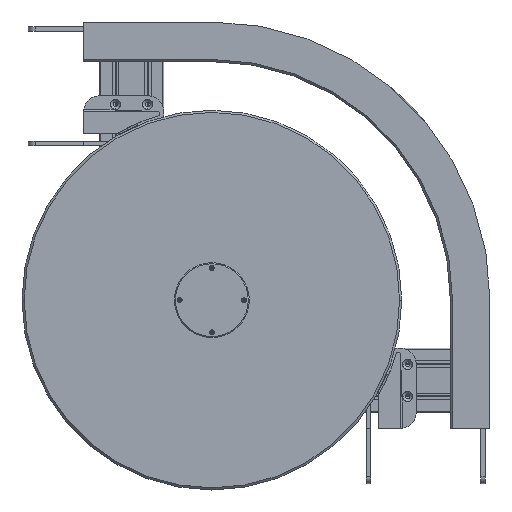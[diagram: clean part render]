
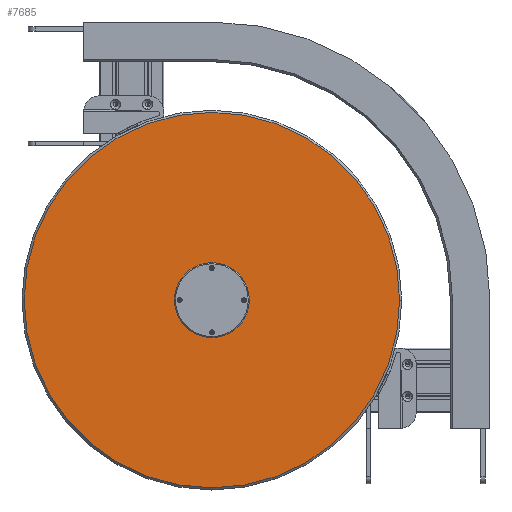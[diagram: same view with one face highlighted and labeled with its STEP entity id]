
A CAD part, front view. The second image highlights one B-rep face of the part: STEP entity #7685.
In plain terms, the highlighted planar face has unit normal (0, -1, 0) as drawn and (0, 1, 0) by its records, which use the part's own axes.
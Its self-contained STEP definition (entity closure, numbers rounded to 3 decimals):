
#1007 = EDGE_CURVE ( 'NONE', #26871, #2707, #21252, .T. ) ;
#1766 = PLANE ( 'NONE',  #25169 ) ;
#2088 = CARTESIAN_POINT ( 'NONE',  ( 0., 10., 0. ) ) ;
#2707 = VERTEX_POINT ( 'NONE', #23573 ) ;
#2722 = VERTEX_POINT ( 'NONE', #21312 ) ;
#2828 = ORIENTED_EDGE ( 'NONE', *, *, #1007, .F. ) ;
#3178 = VERTEX_POINT ( 'NONE', #3789 ) ;
#3789 = CARTESIAN_POINT ( 'NONE',  ( -30., 10., 0.75 ) ) ;
#3868 = ORIENTED_EDGE ( 'NONE', *, *, #28345, .F. ) ;
#4397 = AXIS2_PLACEMENT_3D ( 'NONE', #25790, #28052, #18798 ) ;
#4409 = FACE_BOUND ( 'NONE', #7078, .T. ) ;
#4470 = VERTEX_POINT ( 'NONE', #24363 ) ;
#4473 = VERTEX_POINT ( 'NONE', #26541 ) ;
#5443 = FACE_BOUND ( 'NONE', #17595, .T. ) ;
#5933 = AXIS2_PLACEMENT_3D ( 'NONE', #2088, #11282, #15589 ) ;
#6033 = DIRECTION ( 'NONE',  ( 0., 0., 1. ) ) ;
#6129 = CARTESIAN_POINT ( 'NONE',  ( 0., 10., 0. ) ) ;
#6133 = EDGE_CURVE ( 'NONE', #2707, #26871, #15652, .T. ) ;
#6514 = CARTESIAN_POINT ( 'NONE',  ( 0., 10., 29.25 ) ) ;
#6595 = CIRCLE ( 'NONE', #16491, 0.75 ) ;
#6934 = VERTEX_POINT ( 'NONE', #16656 ) ;
#7078 = EDGE_LOOP ( 'NONE', ( #3868, #25555 ) ) ;
#7324 = VERTEX_POINT ( 'NONE', #17791 ) ;
#7343 = CARTESIAN_POINT ( 'NONE',  ( 30., 10., 0. ) ) ;
#7685 = ADVANCED_FACE ( 'NONE', ( #18752, #8286, #4409, #5443, #24732, #26854 ), #1766, .T. ) ;
#7856 = EDGE_CURVE ( 'NONE', #28915, #6934, #19813, .T. ) ;
#8148 = ORIENTED_EDGE ( 'NONE', *, *, #12587, .T. ) ;
#8181 = ORIENTED_EDGE ( 'NONE', *, *, #13674, .F. ) ;
#8286 = FACE_BOUND ( 'NONE', #22331, .T. ) ;
#8391 = DIRECTION ( 'NONE',  ( 0., 0., 1. ) ) ;
#8692 = DIRECTION ( 'NONE',  ( 0., 1., 0. ) ) ;
#9215 = CIRCLE ( 'NONE', #27155, 25. ) ;
#9251 = CARTESIAN_POINT ( 'NONE',  ( 30., 10., 0.75 ) ) ;
#9271 = DIRECTION ( 'NONE',  ( 0., 0., 1. ) ) ;
#9782 = DIRECTION ( 'NONE',  ( 0., 1., 0. ) ) ;
#9804 = DIRECTION ( 'NONE',  ( 0., 1., 0. ) ) ;
#9884 = CARTESIAN_POINT ( 'NONE',  ( 0., 10., 30. ) ) ;
#9941 = CIRCLE ( 'NONE', #26099, 0.75 ) ;
#10459 = VERTEX_POINT ( 'NONE', #6514 ) ;
#10558 = ORIENTED_EDGE ( 'NONE', *, *, #14328, .F. ) ;
#10896 = ORIENTED_EDGE ( 'NONE', *, *, #21170, .F. ) ;
#11147 = DIRECTION ( 'NONE',  ( 0., 1., 0. ) ) ;
#11282 = DIRECTION ( 'NONE',  ( 0., 1., 0. ) ) ;
#11480 = EDGE_CURVE ( 'NONE', #6934, #28915, #9215, .T. ) ;
#11971 = DIRECTION ( 'NONE',  ( 0., 0., 1. ) ) ;
#12292 = CARTESIAN_POINT ( 'NONE',  ( 30., 10., 0. ) ) ;
#12587 = EDGE_CURVE ( 'NONE', #14635, #2722, #20068, .T. ) ;
#12608 = EDGE_CURVE ( 'NONE', #4470, #7324, #19042, .T. ) ;
#13268 = ORIENTED_EDGE ( 'NONE', *, *, #7856, .F. ) ;
#13674 = EDGE_CURVE ( 'NONE', #3178, #4473, #22645, .T. ) ;
#14240 = AXIS2_PLACEMENT_3D ( 'NONE', #26600, #21995, #22175 ) ;
#14290 = DIRECTION ( 'NONE',  ( 0., 0., 1. ) ) ;
#14305 = DIRECTION ( 'NONE',  ( 0., 1., 0. ) ) ;
#14328 = EDGE_CURVE ( 'NONE', #7324, #4470, #17383, .T. ) ;
#14408 = DIRECTION ( 'NONE',  ( 0., 0., 1. ) ) ;
#14552 = DIRECTION ( 'NONE',  ( 0., 0., 1. ) ) ;
#14635 = VERTEX_POINT ( 'NONE', #27265 ) ;
#14862 = CIRCLE ( 'NONE', #4397, 0.75 ) ;
#14900 = CARTESIAN_POINT ( 'NONE',  ( 0., 10., 25. ) ) ;
#15145 = DIRECTION ( 'NONE',  ( 0., 1., 0. ) ) ;
#15389 = CARTESIAN_POINT ( 'NONE',  ( 0., 10., 30.75 ) ) ;
#15398 = CARTESIAN_POINT ( 'NONE',  ( 0., 10., -30. ) ) ;
#15459 = VERTEX_POINT ( 'NONE', #15389 ) ;
#15589 = DIRECTION ( 'NONE',  ( 0., 0., 1. ) ) ;
#15652 = CIRCLE ( 'NONE', #26518, 0.75 ) ;
#15726 = CARTESIAN_POINT ( 'NONE',  ( 0., 10., 0. ) ) ;
#15854 = ORIENTED_EDGE ( 'NONE', *, *, #6133, .F. ) ;
#16058 = EDGE_LOOP ( 'NONE', ( #13268, #26912 ) ) ;
#16491 = AXIS2_PLACEMENT_3D ( 'NONE', #24852, #22503, #9271 ) ;
#16656 = CARTESIAN_POINT ( 'NONE',  ( 0., 10., -25. ) ) ;
#16668 = DIRECTION ( 'NONE',  ( 0., 0., 1. ) ) ;
#17383 = CIRCLE ( 'NONE', #14240, 0.75 ) ;
#17595 = EDGE_LOOP ( 'NONE', ( #8181, #10896 ) ) ;
#17773 = ORIENTED_EDGE ( 'NONE', *, *, #18088, .T. ) ;
#17791 = CARTESIAN_POINT ( 'NONE',  ( 0., 10., -29.25 ) ) ;
#18003 = EDGE_CURVE ( 'NONE', #10459, #15459, #9941, .T. ) ;
#18088 = EDGE_CURVE ( 'NONE', #2722, #14635, #27495, .T. ) ;
#18293 = CARTESIAN_POINT ( 'NONE',  ( 0., 10., 0. ) ) ;
#18752 = FACE_BOUND ( 'NONE', #21659, .T. ) ;
#18798 = DIRECTION ( 'NONE',  ( 0., 0., 1. ) ) ;
#19042 = CIRCLE ( 'NONE', #28494, 0.75 ) ;
#19813 = CIRCLE ( 'NONE', #22187, 25. ) ;
#20068 = CIRCLE ( 'NONE', #5933, 175.5 ) ;
#20985 = AXIS2_PLACEMENT_3D ( 'NONE', #18293, #23124, #11971 ) ;
#21170 = EDGE_CURVE ( 'NONE', #4473, #3178, #14862, .T. ) ;
#21252 = CIRCLE ( 'NONE', #23913, 0.75 ) ;
#21312 = CARTESIAN_POINT ( 'NONE',  ( 0., 10., -175.5 ) ) ;
#21659 = EDGE_LOOP ( 'NONE', ( #10558, #23354 ) ) ;
#21722 = CARTESIAN_POINT ( 'NONE',  ( -30., 10., 0. ) ) ;
#21995 = DIRECTION ( 'NONE',  ( 0., 1., 0. ) ) ;
#22175 = DIRECTION ( 'NONE',  ( 0., 0., 1. ) ) ;
#22187 = AXIS2_PLACEMENT_3D ( 'NONE', #15726, #11147, #24815 ) ;
#22251 = DIRECTION ( 'NONE',  ( 0., 1., 0. ) ) ;
#22331 = EDGE_LOOP ( 'NONE', ( #2828, #15854 ) ) ;
#22503 = DIRECTION ( 'NONE',  ( 0., 1., 0. ) ) ;
#22645 = CIRCLE ( 'NONE', #27767, 0.75 ) ;
#23124 = DIRECTION ( 'NONE',  ( 0., 1., 0. ) ) ;
#23354 = ORIENTED_EDGE ( 'NONE', *, *, #12608, .F. ) ;
#23573 = CARTESIAN_POINT ( 'NONE',  ( 30., 10., -0.75 ) ) ;
#23913 = AXIS2_PLACEMENT_3D ( 'NONE', #7343, #14305, #14408 ) ;
#24363 = CARTESIAN_POINT ( 'NONE',  ( 0., 10., -30.75 ) ) ;
#24424 = DIRECTION ( 'NONE',  ( 0., 0., 1. ) ) ;
#24732 = FACE_OUTER_BOUND ( 'NONE', #24789, .T. ) ;
#24789 = EDGE_LOOP ( 'NONE', ( #17773, #8148 ) ) ;
#24815 = DIRECTION ( 'NONE',  ( 0., 0., 1. ) ) ;
#24852 = CARTESIAN_POINT ( 'NONE',  ( 0., 10., 30. ) ) ;
#25169 = AXIS2_PLACEMENT_3D ( 'NONE', #6129, #15145, #8391 ) ;
#25555 = ORIENTED_EDGE ( 'NONE', *, *, #18003, .F. ) ;
#25645 = CARTESIAN_POINT ( 'NONE',  ( 0., 10., 0. ) ) ;
#25790 = CARTESIAN_POINT ( 'NONE',  ( -30., 10., 0. ) ) ;
#25816 = DIRECTION ( 'NONE',  ( 0., 1., 0. ) ) ;
#26099 = AXIS2_PLACEMENT_3D ( 'NONE', #9884, #9804, #16668 ) ;
#26518 = AXIS2_PLACEMENT_3D ( 'NONE', #12292, #25816, #14552 ) ;
#26541 = CARTESIAN_POINT ( 'NONE',  ( -30., 10., -0.75 ) ) ;
#26600 = CARTESIAN_POINT ( 'NONE',  ( 0., 10., -30. ) ) ;
#26854 = FACE_BOUND ( 'NONE', #16058, .T. ) ;
#26871 = VERTEX_POINT ( 'NONE', #9251 ) ;
#26912 = ORIENTED_EDGE ( 'NONE', *, *, #11480, .F. ) ;
#27155 = AXIS2_PLACEMENT_3D ( 'NONE', #25645, #9782, #14290 ) ;
#27265 = CARTESIAN_POINT ( 'NONE',  ( 0., 10., 175.5 ) ) ;
#27495 = CIRCLE ( 'NONE', #20985, 175.5 ) ;
#27767 = AXIS2_PLACEMENT_3D ( 'NONE', #21722, #8692, #6033 ) ;
#28052 = DIRECTION ( 'NONE',  ( 0., 1., 0. ) ) ;
#28345 = EDGE_CURVE ( 'NONE', #15459, #10459, #6595, .T. ) ;
#28494 = AXIS2_PLACEMENT_3D ( 'NONE', #15398, #22251, #24424 ) ;
#28915 = VERTEX_POINT ( 'NONE', #14900 ) ;
